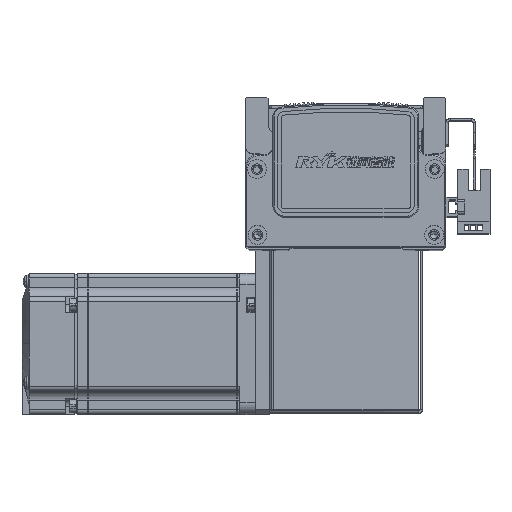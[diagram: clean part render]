
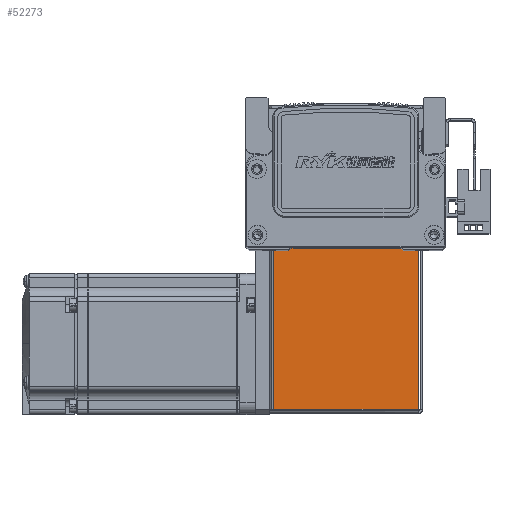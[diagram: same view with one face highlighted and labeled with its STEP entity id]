
A CAD part, top view. The second image highlights one B-rep face of the part: STEP entity #52273.
In plain terms, the highlighted planar face has unit normal (0, 0, 1) as drawn and (0, 0, -1) by its records, which use the part's own axes.
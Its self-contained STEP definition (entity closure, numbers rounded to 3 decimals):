
#1300 = CARTESIAN_POINT ( 'NONE',  ( -30.793, 0.737, -35. ) ) ;
#1447 = CARTESIAN_POINT ( 'NONE',  ( -30.793, 72.5, -35. ) ) ;
#1453 = CARTESIAN_POINT ( 'NONE',  ( 30.763, 72.5, -35. ) ) ;
#1464 = CARTESIAN_POINT ( 'NONE',  ( 30.763, 0.737, -35. ) ) ;
#10416 = EDGE_LOOP ( 'NONE', ( #42186, #42120, #42072, #42016 ) ) ;
#14788 = VERTEX_POINT ( 'NONE', #1300 ) ;
#14870 = VERTEX_POINT ( 'NONE', #1453 ) ;
#14872 = VERTEX_POINT ( 'NONE', #1464 ) ;
#14889 = VERTEX_POINT ( 'NONE', #1447 ) ;
#30367 = FACE_OUTER_BOUND ( 'NONE', #10416, .T. ) ;
#42016 = ORIENTED_EDGE ( 'NONE', *, *, #64817, .T. ) ;
#42072 = ORIENTED_EDGE ( 'NONE', *, *, #64787, .T. ) ;
#42120 = ORIENTED_EDGE ( 'NONE', *, *, #64869, .F. ) ;
#42186 = ORIENTED_EDGE ( 'NONE', *, *, #64870, .T. ) ;
#43230 = PLANE ( 'NONE',  #49807 ) ;
#43231 = DIRECTION ( 'NONE',  ( 0., 0., 1. ) ) ;
#43248 = CARTESIAN_POINT ( 'NONE',  ( 0., 0., -35. ) ) ;
#43286 = DIRECTION ( 'NONE',  ( 0., -1., 0. ) ) ;
#49807 = AXIS2_PLACEMENT_3D ( 'NONE', #43248, #43231, #43286 ) ;
#52273 = ADVANCED_FACE ( 'NONE', ( #30367 ), #43230, .F. ) ;
#64787 = EDGE_CURVE ( 'NONE', #14788, #14889, #69413, .T. ) ;
#64817 = EDGE_CURVE ( 'NONE', #14889, #14870, #69457, .T. ) ;
#64869 = EDGE_CURVE ( 'NONE', #14788, #14872, #69483, .T. ) ;
#64870 = EDGE_CURVE ( 'NONE', #14870, #14872, #69487, .T. ) ;
#68704 = CARTESIAN_POINT ( 'NONE',  ( -30.793, 0., -35. ) ) ;
#68718 = DIRECTION ( 'NONE',  ( 0., 1., 0. ) ) ;
#68789 = DIRECTION ( 'NONE',  ( 1., 0., 0. ) ) ;
#68811 = CARTESIAN_POINT ( 'NONE',  ( 0., 72.5, -35. ) ) ;
#68913 = CARTESIAN_POINT ( 'NONE',  ( 30.763, 72.5, -35. ) ) ;
#68920 = DIRECTION ( 'NONE',  ( 0., -1., 0. ) ) ;
#68927 = CARTESIAN_POINT ( 'NONE',  ( 32.5, 0.737, -35. ) ) ;
#68942 = DIRECTION ( 'NONE',  ( 1., 0., 0. ) ) ;
#69404 = VECTOR ( 'NONE', #68718, 1000. ) ;
#69413 = LINE ( 'NONE', #68704, #69404 ) ;
#69455 = VECTOR ( 'NONE', #68789, 1000. ) ;
#69457 = LINE ( 'NONE', #68811, #69455 ) ;
#69483 = LINE ( 'NONE', #68927, #69486 ) ;
#69486 = VECTOR ( 'NONE', #68942, 1000. ) ;
#69487 = LINE ( 'NONE', #68913, #69511 ) ;
#69511 = VECTOR ( 'NONE', #68920, 1000. ) ;
